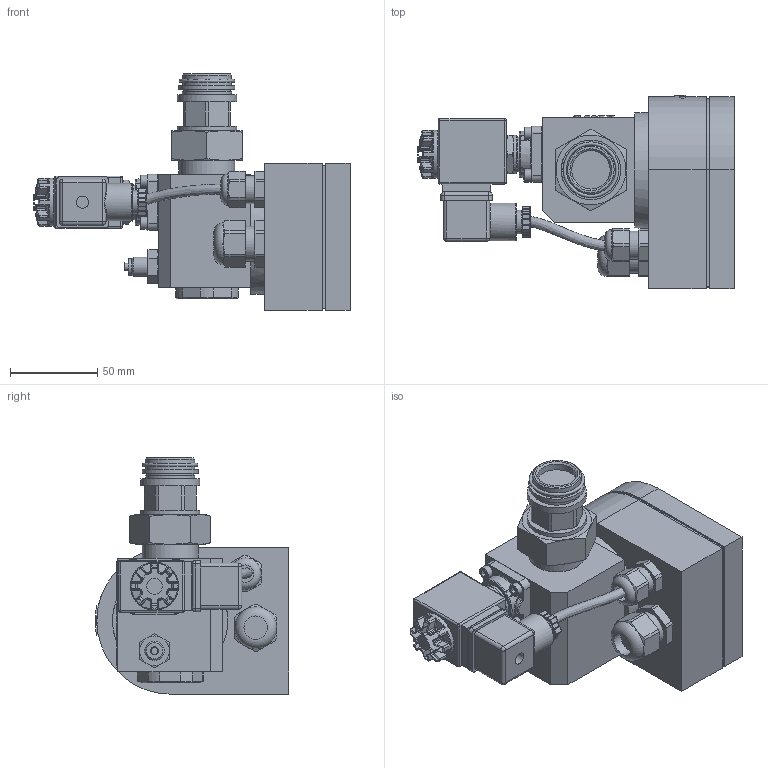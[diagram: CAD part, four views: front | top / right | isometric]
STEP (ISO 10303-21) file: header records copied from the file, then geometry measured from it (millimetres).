
FILE_DESCRIPTION(/* description */ (''),/* implementation_level */ '2;1');
FILE_NAME(/* name */ 'P:\ORE_ERM\ERM6-OC\ERM6-OC.stp',/* time_stamp */ '2019-03-01T10:59:48+01:00',/* author */ ('neufeld'),/* organization */ (''),/* preprocessor_version */ 'ST-DEVELOPER v17',/* originating_system */ 'Autodesk Inventor 2019',/* authorisation */ '');
FILE_SCHEMA (('AUTOMOTIVE_DESIGN { 1 0 10303 214 3 1 1 }'));
Products named in the file (1): ERM6-OC_AG-Kunde
Bounding box: 181.11 x 111 x 135.3 mm (x, y, z)
Volume: 820324.1 mm3; surface area: 84867.9 mm2
Topology: 3 solids, 3 shells, 1951 faces, 5007 edges, 3210 vertices
Faces by surface type: plane 907, bspline 573, cylinder 244, torus 113, cone 62, sphere 52
Full cylindrical faces by diameter (mm): 4 x1, 7 x5, 9.1 x1, 9.4 x1, 10 x1, 10.5 x1, 11.112 x1, 13.5 x2, 16 x1, 20 x2, 20.5 x1, 21.5 x1, 22 x2, 24.2 x1, 26.6 x1, 27.5 x1, 28 x1, 28.2 x1, 28.81 x1, 32 x1, 32.15 x1, 34 x2, 34.1 x1, 66 x1
Entity records: 75211 total; most frequent: CARTESIAN_POINT 30602, ORIENTED_EDGE 10000, DIRECTION 7427, EDGE_CURVE 5000, VERTEX_POINT 3193, LINE 2783, VECTOR 2783, AXIS2_PLACEMENT_3D 2322
